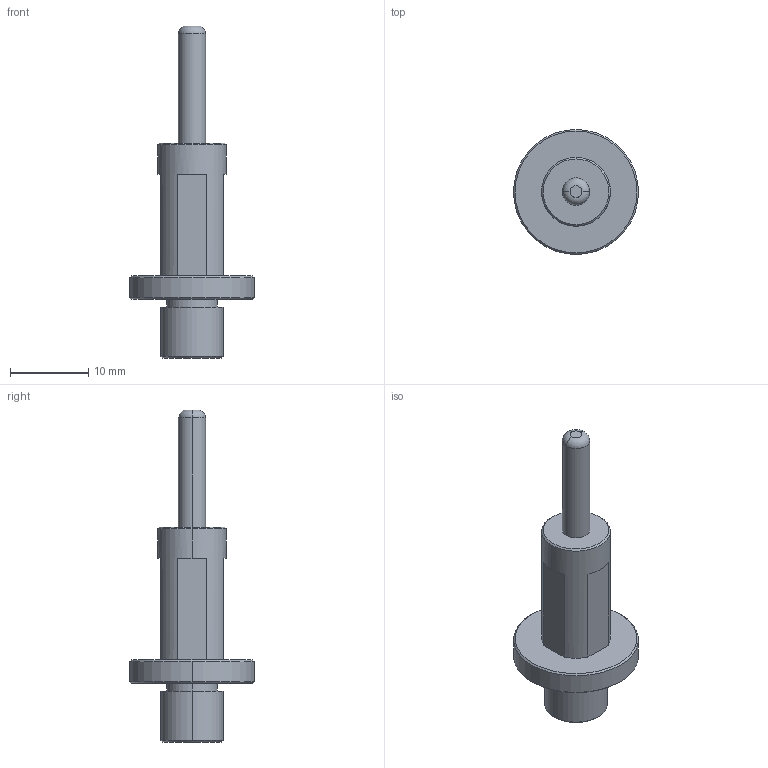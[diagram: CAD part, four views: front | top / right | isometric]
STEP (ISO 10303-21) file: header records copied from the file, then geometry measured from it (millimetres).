
FILE_DESCRIPTION(('CATIA V5 STEP Exchange'),'2;1');
FILE_NAME('D:\姚明阳\1、工装图纸\VDC压堵盖\工装数模和图纸\AGZ133.03_V1.stp','2025-04-25T01:58:57+00:00',('none'),('none'),'CATIA Version 5 Release 21 GA (IN-10)','CATIA V5 STEP AP214','none');
FILE_SCHEMA(('AUTOMOTIVE_DESIGN { 1 0 10303 214 1 1 1 1 }'));
Length unit declared in the file: millimetre
Products named in the file (1): AGZ133.03_V1
Bounding box: 16 x 16 x 42.5 mm (x, y, z)
Volume: 2085 mm3; surface area: 1384.3 mm2
Topology: 1 solids, 1 shells, 34 faces, 78 edges, 50 vertices
Faces by surface type: plane 14, cylinder 10, cone 8, torus 2
Entity records: 916 total; most frequent: ORIENTED_EDGE 156, CARTESIAN_POINT 155, DIRECTION 130, EDGE_CURVE 78, AXIS2_PLACEMENT_3D 67, VERTEX_POINT 50, CIRCLE 40, VECTOR 38
